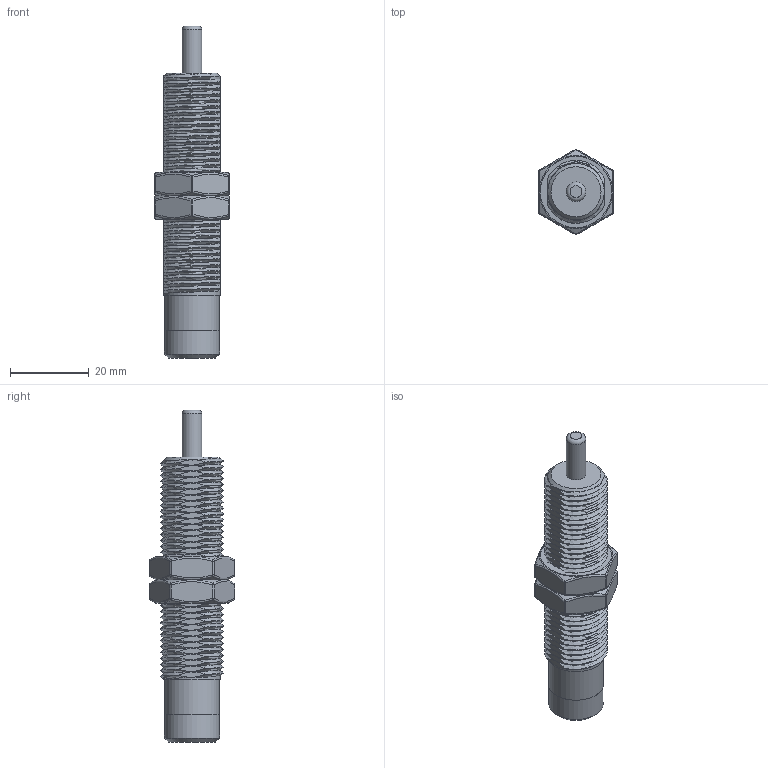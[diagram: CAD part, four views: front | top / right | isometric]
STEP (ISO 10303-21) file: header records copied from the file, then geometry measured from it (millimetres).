
FILE_DESCRIPTION(('STEP AP203'),'1');
FILE_NAME('C:/Documents and Settings/User/官帕 拳搁/KMA16-12.stp',' ',(' '),(' '),'XStep 1.0',' ',' ');
FILE_SCHEMA(('CONFIG_CONTROL_DESIGN'));
Length unit declared in the file: metre
Products named in the file (1): Assembly167
Bounding box: 19 x 21.78 x 84.5 mm (x, y, z)
Volume: 15633.7 mm3; surface area: 12613.1 mm2
Topology: 7 solids, 7 shells, 201 faces, 485 edges, 299 vertices
Faces by surface type: plane 100, bspline 27, cone 26, sphere 24, cylinder 19, torus 5
Full cylindrical faces by diameter (mm): 5 x1, 13 x1, 14 x2, 14.376 x1, 14.5 x2
Entity records: 14373 total; most frequent: CARTESIAN_POINT 10449, ORIENTED_EDGE 930, DIRECTION 625, EDGE_CURVE 465, AXIS2_PLACEMENT_3D 299, VERTEX_POINT 293, B_SPLINE_CURVE_WITH_KNOTS 245, EDGE_LOOP 220
